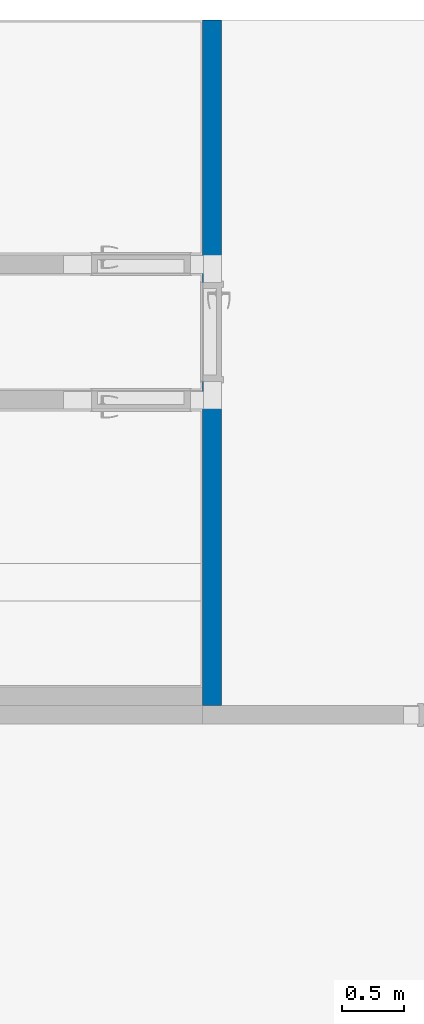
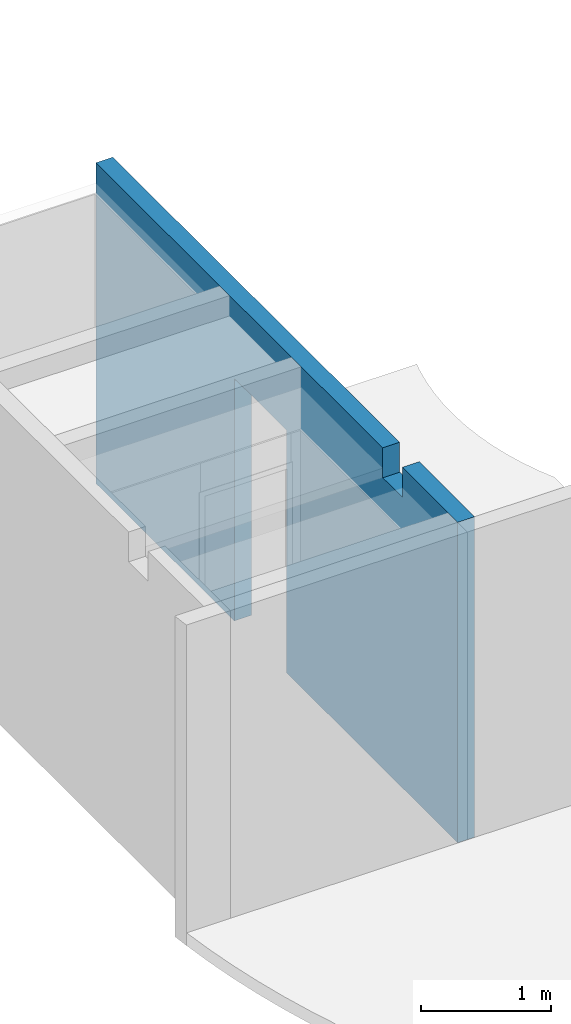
# One storey, part 9 of 17: 1 wall, 1 opening.
"""IFC4 building model written with IfcOpenShell, lengths in millimetres."""

from ifc_helpers import new_model, entity, si_unit, converted_unit, derived_unit, direction, frame, origin_with_axes, place, context, subcontext, project, spatial, polygons, material, constituent, constituent_set, type_object, element, save


model = new_model("IFC4")

# Units and contexts
model_context = context("Model", 3, precision=0.01, world=origin_with_axes(), true_north=direction((0.0, 1.0)))
body_context = subcontext(model_context, "Body", "Model", "MODEL_VIEW")
ifc_project = project(units=[si_unit("LENGTHUNIT", "METRE", prefix="MILLI"), si_unit("AREAUNIT", "SQUARE_METRE"), si_unit("VOLUMEUNIT", "CUBIC_METRE"), converted_unit("PLANEANGLEUNIT", "DEGREE", entity("IfcPlaneAngleMeasure", 0.0174532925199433), si_unit("PLANEANGLEUNIT", "RADIAN"), dimensions=[0, 0, 0, 0, 0, 0, 0]), converted_unit("TIMEUNIT", "Year", entity("IfcTimeMeasure", 31557600.0), si_unit("TIMEUNIT", "SECOND"), dimensions=[0, 0, 1, 0, 0, 0, 0]), si_unit("MASSUNIT", "GRAM", prefix="KILO"), si_unit("THERMODYNAMICTEMPERATUREUNIT", "DEGREE_CELSIUS"), si_unit("LUMINOUSINTENSITYUNIT", "LUMEN"), si_unit("ENERGYUNIT", "JOULE", prefix="MEGA"), derived_unit("THERMALCONDUCTANCEUNIT", [(si_unit("POWERUNIT", "WATT"), 1), (si_unit("LENGTHUNIT", "METRE"), -1), (si_unit("THERMODYNAMICTEMPERATUREUNIT", "KELVIN"), -1)]), derived_unit("SPECIFICHEATCAPACITYUNIT", [(si_unit("ENERGYUNIT", "JOULE"), 1), (si_unit("MASSUNIT", "GRAM", prefix="KILO"), -1), (si_unit("THERMODYNAMICTEMPERATUREUNIT", "KELVIN"), -1)]), derived_unit("MASSDENSITYUNIT", [(si_unit("MASSUNIT", "GRAM", prefix="KILO"), 1), (si_unit("VOLUMEUNIT", "CUBIC_METRE"), -1)])], contexts=[model_context])

# Site, building, storey
site_placement = place(None, origin_with_axes())
site = spatial("IfcSite", under=ifc_project, at=site_placement, Name="Exteriér", CompositionType="ELEMENT")
building_placement = place(site_placement, origin_with_axes())
building = spatial("IfcBuilding", under=site, at=building_placement, Name="Univerzitní lezecké centrum", CompositionType="ELEMENT")
storey_placement = place(building_placement, frame((0.0, 0.0, 3200.0), z_axis=(0.0, 0.0, 1.0), x_axis=(1.0, 0.0, 0.0)))
storey = spatial("IfcBuildingStorey", under=building, at=storey_placement, Name="2.NP", CompositionType="ELEMENT", Elevation=3200.0)

# Wall, opening
ifc_material = material(Name="Keramické tvárnice nenosné tl. 150 mm")
ifc_constituent = constituent(ifc_material, Name="Keramické tvárnice nenosné tl. 150 mm")
ifc_constituent_set = constituent_set(constituents=[ifc_constituent], Name="!Vnitřní keramická stěna 150 mm - nenosná*")
wall_type = type_object("IfcWallType", Name="!Vnitřní keramická stěna 150 mm - nenosná* 150", PredefinedType="NOTDEFINED")
wall_placement = place(storey_placement, frame((-2850.351766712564, -1149.612793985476, -120.000000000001), z_axis=(0.0, 0.0, 1.0), x_axis=(0.0, 1.0, 0.0)))
wall = element("IfcWall", 1, at=wall_placement, inside=storey, type_object=wall_type, material=ifc_constituent_set, Name="St07*", PredefinedType="NOTDEFINED", context=body_context, shape_type="Tessellation", body=[
    polygons([(3424.612793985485, 0.0, 0.500000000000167), (3424.612793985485, 0.0, 0.0), (5549.612793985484, 0.0, 0.0), (5549.612793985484, 0.0, 3000.0), (1149.449383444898, 0.0, 3000.000099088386), (1149.449383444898, 0.0, 2720.0), (849.4493834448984, 0.0, 2720.0), (849.4493834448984, 0.0, 3000.000099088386), (0.0, 0.0, 3000.0), (0.0, 0.0, 0.0), (2624.612793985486, 0.0, 0.0), (2624.612793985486, 0.0, 0.500000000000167), (2624.612793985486, 0.0, 120.000000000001), (2624.612793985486, 0.0, 2250.0), (2399.612793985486, 0.0, 2250.0), (2399.612793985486, 0.0, 2321.0), (3649.612793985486, 0.0, 2321.0), (3649.612793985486, 0.0, 2250.0), (3424.612793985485, 0.0, 2250.0), (3424.612793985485, 0.0, 120.000000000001), (3424.612793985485, 149.9999999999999, 0.500000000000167), (3424.612793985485, 149.9999999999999, 0.0), (5549.612793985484, 150.0000000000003, 0.0), (5549.612793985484, 150.0000000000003, 3000.0), (1149.449383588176, 150.0000000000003, 3000.000099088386), (1149.449383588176, 150.0000000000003, 2720.0), (849.449383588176, 150.0000000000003, 2720.0), (849.449383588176, 150.0000000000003, 3000.000099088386), (0.0, 150.0000000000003, 3000.0), (0.0, 150.0000000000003, 0.0), (2624.612793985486, 150.0000000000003, 0.0), (2624.612793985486, 150.0000000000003, 0.500000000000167), (2624.612793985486, 150.0000000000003, 120.000000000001), (2624.612793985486, 150.0000000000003, 2270.000000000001), (2624.612793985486, 144.2749987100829, 2270.000000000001), (2624.612793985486, 144.2749987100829, 2250.0), (2399.612793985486, 144.2749987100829, 2250.0), (2399.612793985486, 144.2749987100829, 2321.0), (2399.612793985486, 33.33250000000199, 2280.499637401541), (2399.612793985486, 33.33250000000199, 2260.49963740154), (2399.612793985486, 11.44250000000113, 2260.49963740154), (2399.612793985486, 11.44250000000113, 2280.499637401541), (2399.612793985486, 33.33250000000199, 2310.5), (2399.612793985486, 33.33250000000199, 2290.5), (2399.612793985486, 11.44250000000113, 2290.5), (2399.612793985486, 11.44250000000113, 2310.5), (2399.612793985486, 110.9413637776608, 2280.499637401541), (2399.612793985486, 132.8313637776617, 2280.499637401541), (2399.612793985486, 132.8313637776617, 2260.49963740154), (2399.612793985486, 110.9413637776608, 2260.49963740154), (2399.612793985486, 132.8313637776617, 2290.5), (2399.612793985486, 110.9413637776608, 2290.5), (2399.612793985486, 110.9413637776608, 2310.5), (2399.612793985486, 132.8313637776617, 2310.5), (3649.612793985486, 144.2749987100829, 2321.0), (3649.612793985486, 144.2749987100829, 2250.0), (3649.612793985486, 33.3325000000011, 2280.499637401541), (3649.612793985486, 11.44250000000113, 2280.499637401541), (3649.612793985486, 11.44250000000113, 2260.49963740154), (3649.612793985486, 33.3325000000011, 2260.49963740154), (3649.612793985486, 33.3325000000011, 2310.5), (3649.612793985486, 11.44250000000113, 2310.5), (3649.612793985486, 11.44250000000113, 2290.5), (3649.612793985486, 33.3325000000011, 2290.5), (3649.612793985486, 110.9413637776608, 2280.499637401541), (3649.612793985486, 110.9413637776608, 2260.49963740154), (3649.612793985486, 132.8313637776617, 2260.49963740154), (3649.612793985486, 132.8313637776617, 2280.499637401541), (3649.612793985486, 132.8313637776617, 2290.5), (3649.612793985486, 132.8313637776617, 2310.5), (3649.612793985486, 110.9413637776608, 2310.5), (3649.612793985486, 110.9413637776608, 2290.5), (3424.612793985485, 144.2749987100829, 2250.0), (3424.612793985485, 144.2749987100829, 2270.000000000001), (3424.612793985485, 150.0000000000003, 2270.000000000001), (3424.612793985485, 150.0000000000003, 120.000000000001), (3424.612793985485, 33.3325000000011, 2260.49963740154), (3424.612793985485, 33.33250000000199, 2270.000000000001), (2624.612793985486, 33.33250000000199, 2270.000000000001), (2624.612793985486, 33.33250000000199, 2260.49963740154), (2624.612793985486, 11.44250000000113, 2260.49963740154), (2624.612793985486, 11.44250000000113, 2270.000000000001), (3424.612793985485, 11.44250000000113, 2270.000000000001), (3424.612793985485, 11.44250000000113, 2260.49963740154), (3424.612793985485, 132.8313637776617, 2260.49963740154), (3424.612793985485, 132.8313637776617, 2270.000000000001), (2624.612793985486, 132.8313637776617, 2270.000000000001), (2624.612793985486, 132.8313637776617, 2260.49963740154), (2624.612793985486, 110.9413637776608, 2260.49963740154), (2624.612793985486, 110.9413637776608, 2270.000000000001), (3424.612793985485, 110.9413637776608, 2270.000000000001), (3424.612793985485, 110.9413637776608, 2260.49963740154)], [[[1, 2, 3, 4, 5, 6, 7, 8, 9, 10, 11, 12, 13, 14, 15, 16, 17, 18, 19, 20]], [[2, 1, 21, 22]], [[2, 22, 23, 3]], [[4, 3, 23, 24]], [[4, 24, 25, 5]], [[25, 26, 6, 5]], [[26, 27, 7, 6]], [[7, 27, 28, 8]], [[29, 9, 8, 28]], [[29, 30, 10, 9]], [[31, 11, 10, 30]], [[32, 12, 11, 31]], [[12, 32, 33, 13]], [[34, 35, 36, 14, 13, 33]], [[36, 37, 15, 14]], [[37, 38, 16, 15], [39, 40, 41, 42], [43, 44, 45, 46], [47, 48, 49, 50], [51, 52, 53, 54]], [[55, 17, 16, 38]], [[18, 17, 55, 56], [57, 58, 59, 60], [61, 62, 63, 64], [65, 66, 67, 68], [69, 70, 71, 72]], [[56, 73, 19, 18]], [[20, 19, 73, 74, 75, 76]], [[21, 1, 20, 76]], [[22, 21, 76, 75, 34, 33, 32, 31, 30, 29, 28, 27, 26, 25, 24, 23]], [[34, 75, 74, 35]], [[37, 36, 35, 74, 73, 56, 55, 38]], [[57, 60, 77, 78, 79, 80, 40, 39]], [[41, 40, 80, 81]], [[41, 81, 82, 83, 84, 59, 58, 42]], [[57, 39, 42, 58]], [[64, 44, 43, 61]], [[63, 45, 44, 64]], [[62, 46, 45, 63]], [[61, 43, 46, 62]], [[68, 48, 47, 65]], [[68, 67, 85, 86, 87, 88, 49, 48]], [[50, 49, 88, 89]], [[50, 89, 90, 91, 92, 66, 65, 47]], [[72, 52, 51, 69]], [[71, 53, 52, 72]], [[70, 54, 53, 71]], [[69, 51, 54, 70]], [[60, 59, 84, 77]], [[67, 66, 92, 85]], [[83, 78, 77, 84]], [[83, 82, 79, 78]], [[82, 81, 80, 79]], [[91, 86, 85, 92]], [[91, 90, 87, 86]], [[90, 89, 88, 87]]], closed=True),
])
opening_placement = place(wall_placement, frame((3024.612793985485, 0.0, 120.000000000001), z_axis=(0.0, 0.0, 1.0), x_axis=(1.0, 0.0, 0.0)))
element("IfcOpeningElement", 2, at=opening_placement, cuts=wall, Name="D14", context=body_context, identifier="Reference", shape_type="Tessellation", body=[
    polygons([(399.9999999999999, 149.9999999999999, 0.0), (399.9999999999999, 149.9999999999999, 2150.0), (399.9999999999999, 0.0, 2150.0), (399.9999999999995, 0.0, 0.0), (-399.9999999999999, 149.9999999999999, 2150.0), (411.9999999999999, 149.9999999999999, 0.0), (411.9999999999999, 149.9999999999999, 2162.0), (-411.9999999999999, 149.9999999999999, 2162.0), (-411.9999999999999, 149.9999999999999, 0.0), (-399.9999999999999, 149.9999999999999, 0.0), (-399.9999999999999, 0.0, 2150.0), (-399.9999999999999, 0.0, 0.0), (-411.9999999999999, 0.0, 0.0), (-411.9999999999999, 0.0, 2162.0), (411.9999999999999, 0.0, 2162.0), (411.9999999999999, 0.0, 0.0), (399.9999999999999, 150.9999999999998, 0.0), (399.9999999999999, -0.9999999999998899, 0.0), (-399.9999999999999, -0.9999999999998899, 0.0), (-399.9999999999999, 150.9999999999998, 0.0), (411.9999999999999, 150.9999999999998, 0.0), (411.9999999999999, 150.9999999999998, 2162.0), (-411.9999999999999, 150.9999999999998, 2162.0), (-411.9999999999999, 150.9999999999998, 0.0), (-411.9999999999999, -0.9999999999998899, 0.0), (-411.9999999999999, -0.9999999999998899, 2162.0), (411.9999999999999, -0.9999999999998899, 2162.0), (411.9999999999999, -0.9999999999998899, 0.0), (399.9999999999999, 150.9999999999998, 2150.0), (-399.9999999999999, 150.9999999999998, 2150.0)], [[[1, 2, 3, 4]], [[5, 2, 1, 6, 7, 8, 9, 10]], [[2, 5, 11, 3]], [[4, 3, 11, 12, 13, 14, 15, 16]], [[17, 1, 4, 18, 19, 12, 10, 20]], [[1, 17, 21, 6]], [[7, 6, 21, 22]], [[8, 7, 22, 23]], [[9, 8, 23, 24]], [[20, 10, 9, 24]], [[5, 10, 12, 11]], [[12, 19, 25, 13]], [[14, 13, 25, 26]], [[15, 14, 26, 27]], [[16, 15, 27, 28]], [[18, 4, 16, 28]], [[18, 28, 27, 26, 25, 19]], [[29, 17, 20, 30]], [[17, 29, 30, 20, 24, 23, 22, 21]]], closed=True),
])

save(model, "model.ifc")
